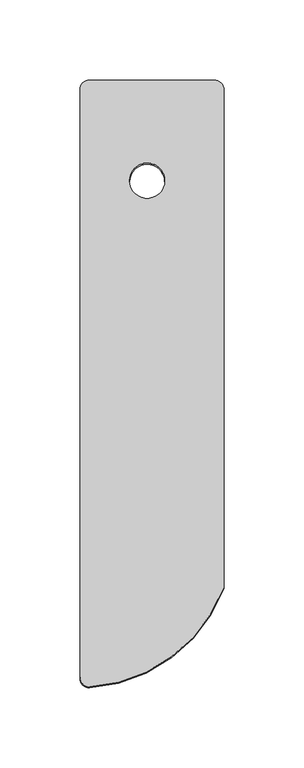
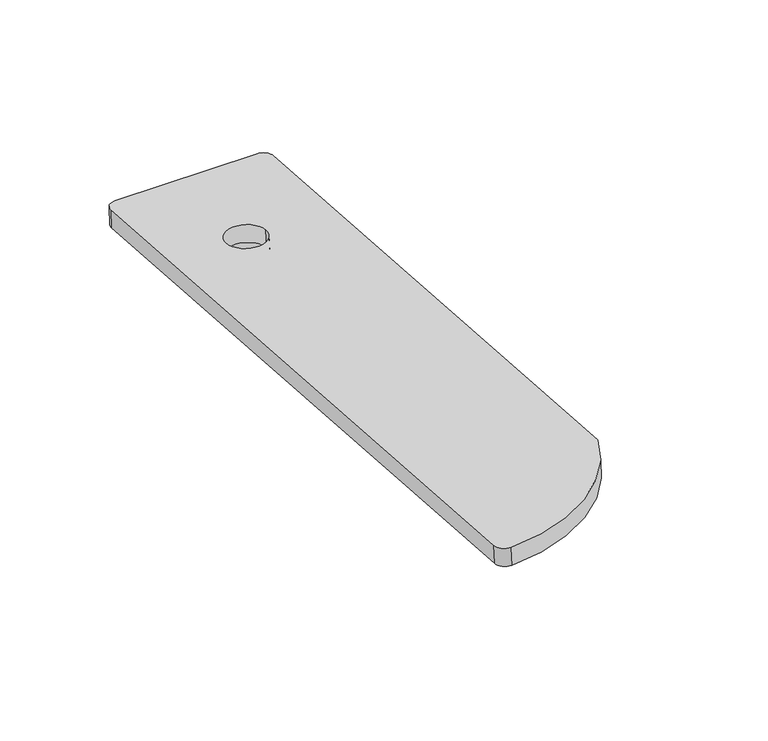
"""IFC4 building model written with IfcOpenShell, lengths in millimetres: proxy geometry, ML PhotonRoof Beaver Anthracite Premium : 0,5X-P."""

from ifc_helpers import new_model, si_unit, point, frame, frame_2d, origin, place, context, project, spatial, polyline, circle_curve, trimmed, segment, composite_curve, outline, extrude, source, transform, mapped, element, save


def specialty_equipment_2edcc2fe(model_context):
    return source(origin(), model_context, "Body", "SweptSolid", [
        extrude(outline(composite_curve([segment(polyline([(0.0, -12.0), (-367.8123166, -12.0)]), True, "CONTINUOUS"), segment(trimmed(circle_curve(frame_2d((-367.8123166, -6.0)), 6.0), [point((-367.8123166, -12.0))], [point((-373.8123165, -6.0))], False, "CARTESIAN"), True, "CONTINUOUS"), segment(polyline([(-373.8123165, -6.0), (-373.8123165, 72.0)]), True, "CONTINUOUS"), segment(trimmed(circle_curve(frame_2d((-367.8123166, 72.0)), 6.0), [point((-373.8123165, 72.0))], [point((-367.8123166, 78.0))], False, "CARTESIAN"), True, "CONTINUOUS"), segment(polyline([(-367.8123166, 78.0), (-56.4057304, 78.0)]), True, "CONTINUOUS"), segment(trimmed(circle_curve(frame_2d((-89.8123166, -12.0)), 96.0), [point((-56.4057304, 78.0))], [point((6.0, -6.0))], False, "CARTESIAN"), True, "CONTINUOUS"), segment(trimmed(circle_curve(frame_2d((0.0, -6.0)), 6.0), [point((6.0, -6.0))], [point((0.0, -12.0))], False, "CARTESIAN"), True, "CONTINUOUS")], self_intersect=False), holes=[composite_curve([segment(trimmed(circle_curve(frame_2d((-310.8123165, 30.0)), 11.0), [point((-310.8123165, 41.0))], [point((-310.8123165, 19.0))], True, "CARTESIAN"), True, "CONTINUOUS"), segment(trimmed(circle_curve(frame_2d((-310.8123165, 30.0)), 11.0), [point((-310.8123165, 19.0))], [point((-310.8123165, 41.0))], True, "CARTESIAN"), True, "CONTINUOUS")], self_intersect=False)]), frame((12.0, -310.2091002, 22.0148394), z_axis=(0.0, 0.0707897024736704, 0.997491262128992), x_axis=(0.0, -0.997491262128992, 0.0707897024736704)), (0.0, 0.0, 1.0), 10.0),
        extrude(outline(polyline([(44.9032038, 0.0), (44.9032038, -23.75), (-5.0967962, -23.75), (-5.0967962, 0.0), (44.9032038, 0.0)])), frame((25.0967962, 45.7146537, -17.0859147), z_axis=(0.0, 0.0707897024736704, 0.997491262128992), x_axis=(1.0, 0.0, 0.0)), (0.0, 0.0, 1.0), 13.8069239),
    ])


if __name__ == "__main__":
    model = new_model("IFC4")
    model_context = context("Model", 3, world=origin())
    ifc_project = project(units=[si_unit("LENGTHUNIT", "METRE", prefix="MILLI")], contexts=[model_context])
    site = spatial("IfcSite", under=ifc_project)
    building = spatial("IfcBuilding", under=site)
    placement = place(None, origin())
    specialty_equipment_shape = specialty_equipment_2edcc2fe(model_context)
    element("IfcBuildingElementProxy", 1, Name="ML PhotonRoof Beaver Anthracite Premium : 0,5X-P", ObjectType="ML PhotonRoof Beaver Anthracite Premium : 0,5X-P", at=placement, inside=building, context=model_context, shape_type="MappedRepresentation", body=[
        mapped(specialty_equipment_shape, transform((0.0, 0.0, 0.0), x_axis=(1.0, 0.0, 0.0), y_axis=(0.0, 1.0, 0.0), z_axis=(0.0, 0.0, 1.0))),
    ])
    save(model, "model.ifc")
